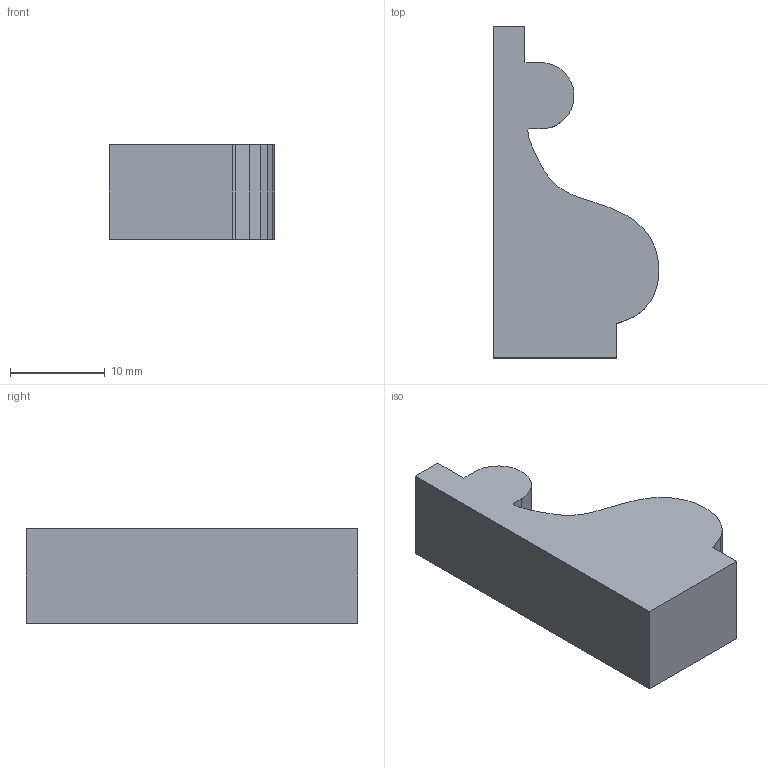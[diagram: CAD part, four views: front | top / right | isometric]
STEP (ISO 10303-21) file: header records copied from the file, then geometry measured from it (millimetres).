
FILE_DESCRIPTION (( 'STEP AP203' ), '1' );
FILE_NAME ('AB006FJ.STEP', '2024-02-16T17:26:22', ( '' ), ( '' ), 'SwSTEP 2.0', 'SolidWorks 2020', '' );
FILE_SCHEMA (( 'CONFIG_CONTROL_DESIGN' ));
Length unit declared in the file: millimetre
Products named in the file (1): AB006FJ
Bounding box: 17.53 x 35.05 x 10 mm (x, y, z)
Volume: 3640.8 mm3; surface area: 1755.7 mm2
Topology: 1 solids, 1 shells, 40 faces, 114 edges, 76 vertices
Faces by surface type: plane 39, cylinder 1
Entity records: 1357 total; most frequent: CARTESIAN_POINT 231, ORIENTED_EDGE 228, DIRECTION 198, EDGE_CURVE 114, LINE 112, VECTOR 112, VERTEX_POINT 76, AXIS2_PLACEMENT_3D 43
